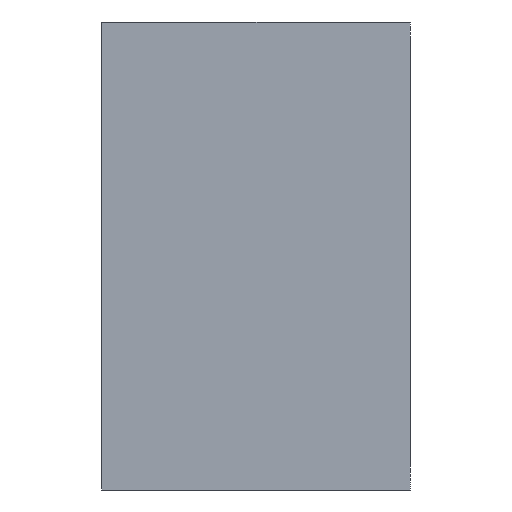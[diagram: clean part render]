
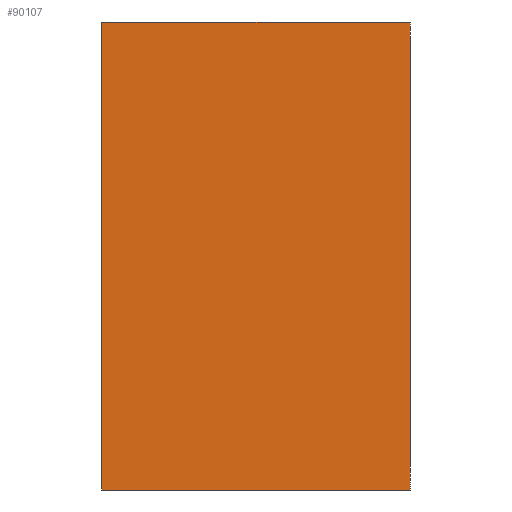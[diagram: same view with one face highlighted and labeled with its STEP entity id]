
A CAD part, left-side view. The second image highlights one B-rep face of the part: STEP entity #90107.
In plain terms, the highlighted planar face has unit normal (-1, 0, 0).
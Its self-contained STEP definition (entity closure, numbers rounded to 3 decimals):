
#7408 = VECTOR ( 'NONE', #77479, 39.37 ) ;
#9746 = EDGE_LOOP ( 'NONE', ( #50530, #39835, #26488, #90860 ) ) ;
#15770 = CARTESIAN_POINT ( 'NONE',  ( -11.719, 0., 8.985 ) ) ;
#19007 = LINE ( 'NONE', #77908, #44043 ) ;
#26488 = ORIENTED_EDGE ( 'NONE', *, *, #73643, .T. ) ;
#32420 = LINE ( 'NONE', #58611, #7408 ) ;
#33516 = CARTESIAN_POINT ( 'NONE',  ( -11.719, -12., 8.985 ) ) ;
#33745 = EDGE_CURVE ( 'NONE', #68989, #38514, #19007, .T. ) ;
#38514 = VERTEX_POINT ( 'NONE', #76163 ) ;
#39835 = ORIENTED_EDGE ( 'NONE', *, *, #33745, .F. ) ;
#39976 = AXIS2_PLACEMENT_3D ( 'NONE', #63722, #112210, #55852 ) ;
#40168 = CARTESIAN_POINT ( 'NONE',  ( -11.719, 0., -9.202 ) ) ;
#44043 = VECTOR ( 'NONE', #96868, 39.37 ) ;
#47734 = FACE_OUTER_BOUND ( 'NONE', #9746, .T. ) ;
#50530 = ORIENTED_EDGE ( 'NONE', *, *, #84699, .F. ) ;
#55852 = DIRECTION ( 'NONE',  ( 0., 0., 1. ) ) ;
#58611 = CARTESIAN_POINT ( 'NONE',  ( -11.719, -12., -9.202 ) ) ;
#63722 = CARTESIAN_POINT ( 'NONE',  ( -11.719, -12., -9.202 ) ) ;
#65484 = VERTEX_POINT ( 'NONE', #15770 ) ;
#68989 = VERTEX_POINT ( 'NONE', #84919 ) ;
#71007 = VERTEX_POINT ( 'NONE', #75502 ) ;
#73643 = EDGE_CURVE ( 'NONE', #68989, #71007, #32420, .T. ) ;
#75502 = CARTESIAN_POINT ( 'NONE',  ( -11.719, -12., 8.985 ) ) ;
#76163 = CARTESIAN_POINT ( 'NONE',  ( -11.719, 0., -9.202 ) ) ;
#77479 = DIRECTION ( 'NONE',  ( 0., 0., 1. ) ) ;
#77908 = CARTESIAN_POINT ( 'NONE',  ( -11.719, -12., -9.202 ) ) ;
#81741 = EDGE_CURVE ( 'NONE', #71007, #65484, #115826, .T. ) ;
#81933 = LINE ( 'NONE', #40168, #109970 ) ;
#84699 = EDGE_CURVE ( 'NONE', #38514, #65484, #81933, .T. ) ;
#84919 = CARTESIAN_POINT ( 'NONE',  ( -11.719, -12., -9.202 ) ) ;
#90107 = ADVANCED_FACE ( 'NONE', ( #47734 ), #102727, .T. ) ;
#90860 = ORIENTED_EDGE ( 'NONE', *, *, #81741, .T. ) ;
#93728 = VECTOR ( 'NONE', #99323, 39.37 ) ;
#96506 = DIRECTION ( 'NONE',  ( 0., 0., 1. ) ) ;
#96868 = DIRECTION ( 'NONE',  ( 0., 1., 0. ) ) ;
#99323 = DIRECTION ( 'NONE',  ( 0., 1., 0. ) ) ;
#102727 = PLANE ( 'NONE',  #39976 ) ;
#109970 = VECTOR ( 'NONE', #96506, 39.37 ) ;
#112210 = DIRECTION ( 'NONE',  ( -1., 0., 0. ) ) ;
#115826 = LINE ( 'NONE', #33516, #93728 ) ;
